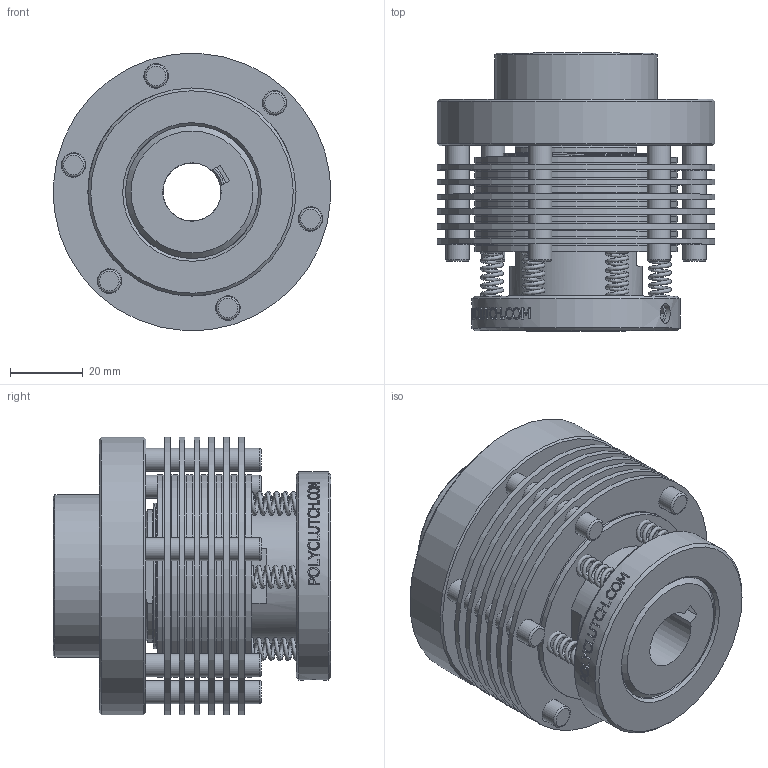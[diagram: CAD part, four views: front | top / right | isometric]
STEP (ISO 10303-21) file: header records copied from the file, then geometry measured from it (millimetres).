
FILE_DESCRIPTION((''),'2;1');
FILE_NAME('P:\Public\Organized 3D Clutch Assembly Files - Jessica\Slippers\Multi Plate\Size 48\SFO48-10.stp','2013-02-01T10:42:03',('TodLob'),(''),'Autodesk Inventor 2011','Autodesk Inventor 2011','');
FILE_SCHEMA(('AUTOMOTIVE_DESIGN { 1 0 10303 214 1 1 1 1 }'));
Length unit declared in the file: inch
Products named in the file (12): SFO48-10; S4812-16mm; S4813; S4815; S4821; S4822; S4817-9F; S4414A; Type A - Hexagon Socket Set Screw - Cup Point - Inch 1/4-28 UNF x 0.51; S4809; Pin - Hardened Ground Machine Dowel (Inch) 1/4 x 1 3/4; 10-12-16
Assembly tree (44 placements, depth 2):
  SFO48-10
    S4812-16mm
    S4813  x6
    S4815  x7
    S4821  x12
    S4822
    S4817-9F
    S4414A  x6
    Type A - Hexagon Socket Set Screw - Cup Point - Inch 1/4-28 UNF x 0.51  x2
    S4809
    Pin - Hardened Ground Machine Dowel (Inch) 1/4 x 1 3/4  x6
    10-12-16
Bounding box: 76.11 x 76.2 x 76.11 mm (x, y, z)
Volume: 185782 mm3; surface area: 148263.6 mm2
Topology: 404 solids, 404 shells, 3555 faces, 7837 edges, 5199 vertices
Faces by surface type: plane 3259, cylinder 152, bspline 106, cone 22, torus 16
Full cylindrical faces by diameter (mm): 5.41 x2, 6.35 x14, 6.528 x9, 6.731 x36, 15.875 x1, 19.05 x2, 36.5 x2, 36.576 x12, 38.1 x6, 40.005 x1, 44.704 x1, 55.55 x19, 57.074 x1, 76.2 x7
Entity records: 61820 total; most frequent: CARTESIAN_POINT 32705, ORIENTED_EDGE 5880, DIRECTION 5449, EDGE_CURVE 2940, VECTOR 2267, LINE 2267, VERTEX_POINT 1947, AXIS2_PLACEMENT_3D 1591
